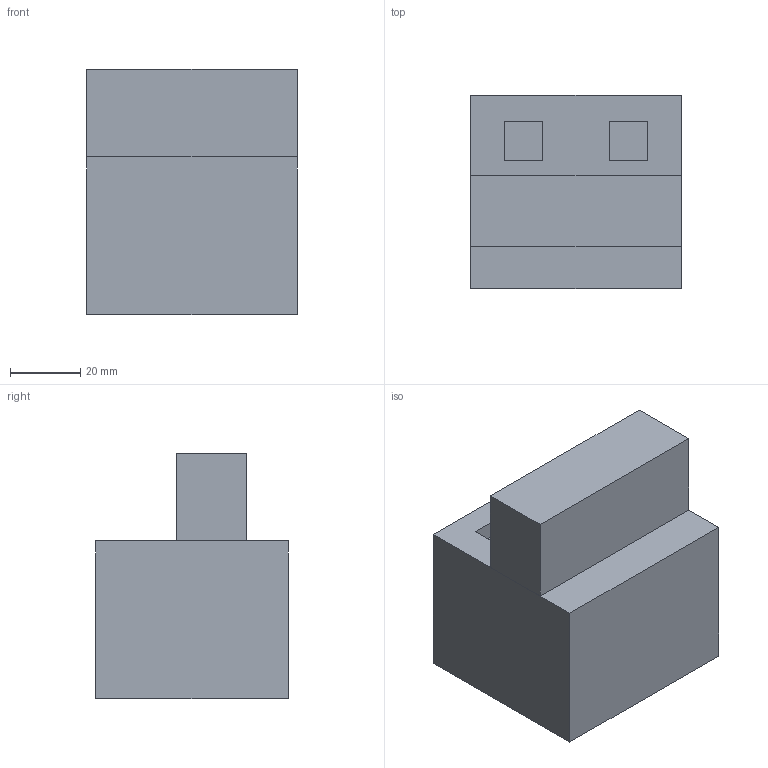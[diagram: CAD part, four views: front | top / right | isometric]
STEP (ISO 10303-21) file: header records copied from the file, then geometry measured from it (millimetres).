
FILE_DESCRIPTION(/* description */ (''),/* implementation_level */ '2;1');
FILE_NAME(/* name */ 'czesci_ekran2.stp',/* time_stamp */ '2025-06-06T22:08:00+02:00',/* author */ (''),/* organization */ (''),/* preprocessor_version */ 'ST-DEVELOPER v20',/* originating_system */ 'SIEMENS PLM Software NX2412.3001',/* authorisation */ '');
FILE_SCHEMA (('AUTOMOTIVE_DESIGN { 1 0 10303 214 3 1 1 1 }'));
Length unit declared in the file: millimetre
Products named in the file (1): czesci_ekran2
Bounding box: 60 x 55 x 70 mm (x, y, z)
Volume: 177290 mm3; surface area: 23790 mm2
Topology: 2 solids, 2 shells, 22 faces, 48 edges, 32 vertices
Faces by surface type: plane 22
Entity records: 621 total; most frequent: CARTESIAN_POINT 103, ORIENTED_EDGE 96, DIRECTION 94, EDGE_CURVE 48, LINE 48, VECTOR 48, VERTEX_POINT 32, EDGE_LOOP 24
